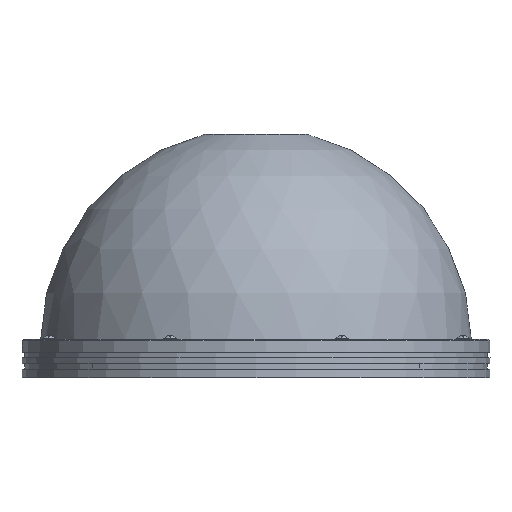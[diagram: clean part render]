
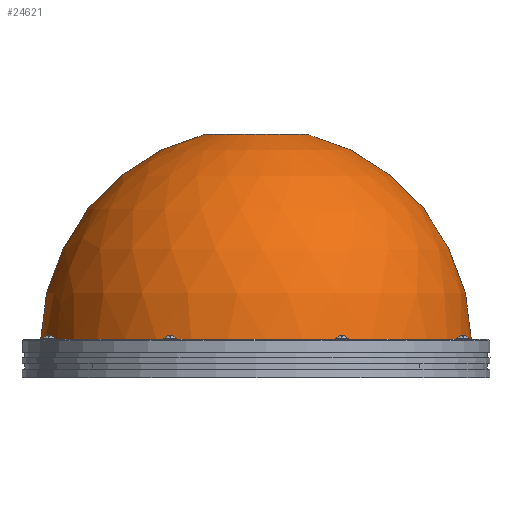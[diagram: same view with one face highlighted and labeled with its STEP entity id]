
A CAD part, left-side view. The second image highlights one B-rep face of the part: STEP entity #24621.
In plain terms, the highlighted spherical face has radius 76 mm.
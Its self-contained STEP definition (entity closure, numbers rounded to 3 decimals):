
#24588=CARTESIAN_POINT('',(0.,0.,12.));
#24589=DIRECTION('',(-0.383,0.924,0.));
#24590=DIRECTION('',(0.,0.,1.));
#24591=AXIS2_PLACEMENT_3D('',#24588,#24590,#24589);
#24592=SPHERICAL_SURFACE('',#24591,76.);
#24593=CARTESIAN_POINT('',(-29.078,70.201,13.5));
#24594=VERTEX_POINT('',#24593);
#24595=CARTESIAN_POINT('',(0.,0.,13.5));
#24596=DIRECTION('',(-0.383,0.924,0.));
#24597=DIRECTION('',(0.,0.,1.));
#24598=AXIS2_PLACEMENT_3D('',#24595,#24597,#24596);
#24599=CIRCLE('',#24598,75.985);
#24600=EDGE_CURVE('',#24594,#24594,#24599,.T.);
#24601=ORIENTED_EDGE('',*,*,#24600,.T.);
#24602=CARTESIAN_POINT('',(-6.883,16.617,85.841));
#24603=VERTEX_POINT('',#24602);
#24604=CARTESIAN_POINT('',(0.,0.,12.));
#24605=DIRECTION('',(-0.383,0.924,0.02));
#24606=DIRECTION('',(0.924,0.383,0.));
#24607=AXIS2_PLACEMENT_3D('',#24604,#24606,#24605);
#24608=CIRCLE('',#24607,76.);
#24609=EDGE_CURVE('',#24594,#24603,#24608,.T.);
#24610=ORIENTED_EDGE('',*,*,#24609,.T.);
#24611=CARTESIAN_POINT('',(0.,0.,85.841));
#24612=DIRECTION('',(-0.383,0.924,0.));
#24613=DIRECTION('',(0.,0.,-1.));
#24614=AXIS2_PLACEMENT_3D('',#24611,#24613,#24612);
#24615=CIRCLE('',#24614,17.986);
#24616=EDGE_CURVE('',#24603,#24603,#24615,.T.);
#24617=ORIENTED_EDGE('',*,*,#24616,.T.);
#24618=ORIENTED_EDGE('',*,*,#24609,.F.);
#24619=EDGE_LOOP('',(#24601,#24610,#24617,#24618));
#24620=FACE_OUTER_BOUND('',#24619,.T.);
#24621=ADVANCED_FACE('',(#24620),#24592,.T.);
